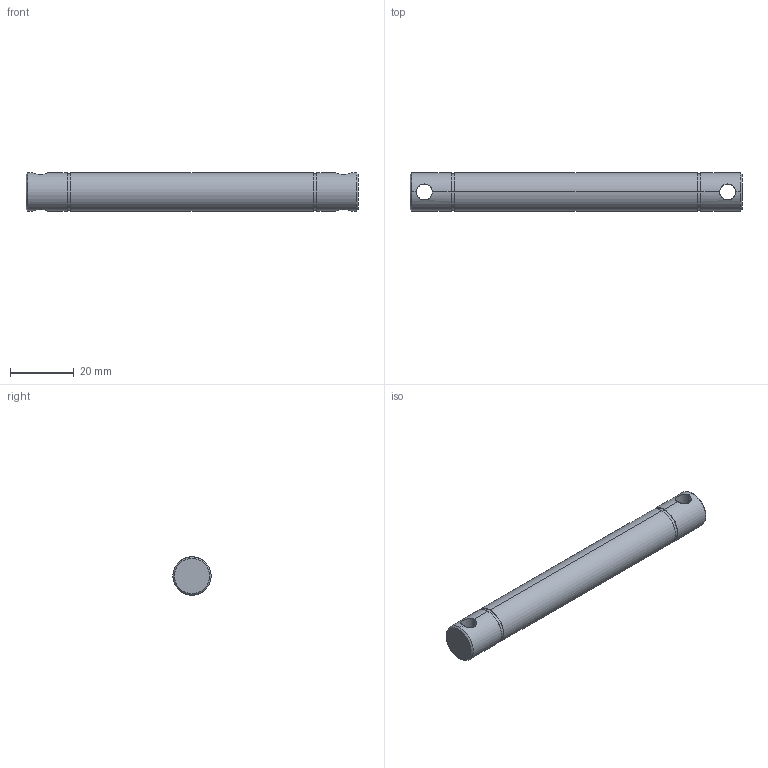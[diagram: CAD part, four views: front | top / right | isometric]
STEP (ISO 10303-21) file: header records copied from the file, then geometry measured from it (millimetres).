
FILE_DESCRIPTION (( 'STEP AP214' ), '1' );
FILE_NAME ('084.030.116.STEP', '2021-02-05T15:36:24', ( '' ), ( '' ), 'SwSTEP 2.0', 'SolidWorks 2018', '' );
FILE_SCHEMA (( 'AUTOMOTIVE_DESIGN' ));
Length unit declared in the file: millimetre
Products named in the file (1): 084.030.116
Bounding box: 104 x 12 x 12 mm (x, y, z)
Volume: 11271.9 mm3; surface area: 4437.3 mm2
Topology: 1 solids, 1 shells, 24 faces, 54 edges, 32 vertices
Faces by surface type: cylinder 14, plane 6, cone 4
Entity records: 976 total; most frequent: CARTESIAN_POINT 351, DIRECTION 120, ORIENTED_EDGE 108, EDGE_CURVE 54, AXIS2_PLACEMENT_3D 49, VERTEX_POINT 32, EDGE_LOOP 28, FACE_OUTER_BOUND 24
